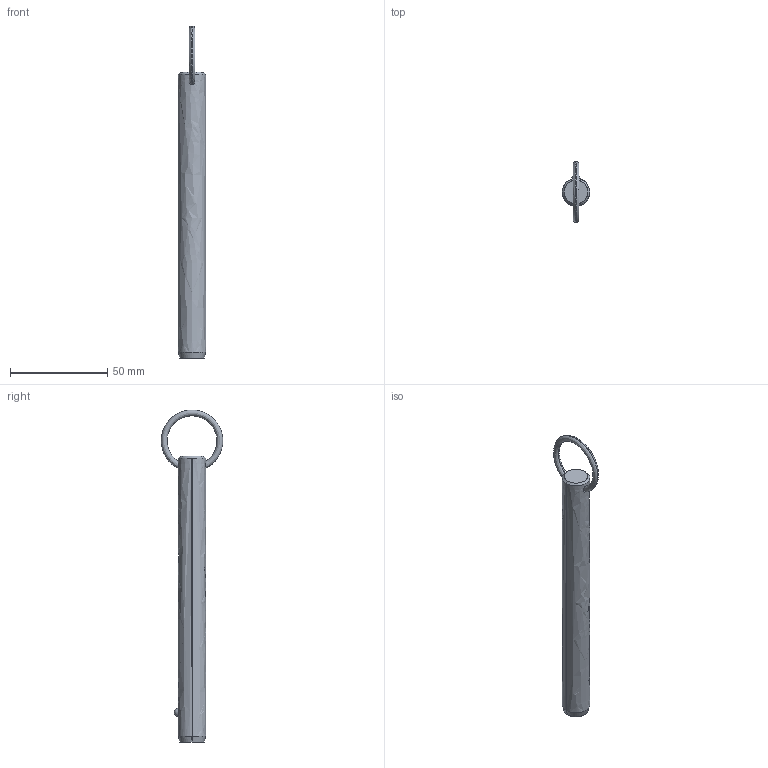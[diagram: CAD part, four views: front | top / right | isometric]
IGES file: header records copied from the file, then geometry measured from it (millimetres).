
Start section: SolidWorks IGES file using analytic representation for surfaces
Global section: file name: C:\Users\liam_\OneDrive\Documents\WORK\Work for WixRoyd\Job Files\J-00019 - Matt Davis CAD Checking\04. CAD Drawings\automotion20190605\P1250.2_v2\P1250.2_v2_20190729_IGES\P1250.056-480.igs; native system: SolidWorks 2017; preprocessor: SolidWorks 2017; author: liam_; date: 190729.232405; units: millimetre
Bounding box: 14.2 x 31.7 x 171 mm (x, y, z)
Surface area: 7532.5 mm2 (no closed solid volume)
Topology: 0 solids, 0 shells, 12 faces, 285 edges, 283 vertices
Faces by surface type: revolution 8, bspline 4
